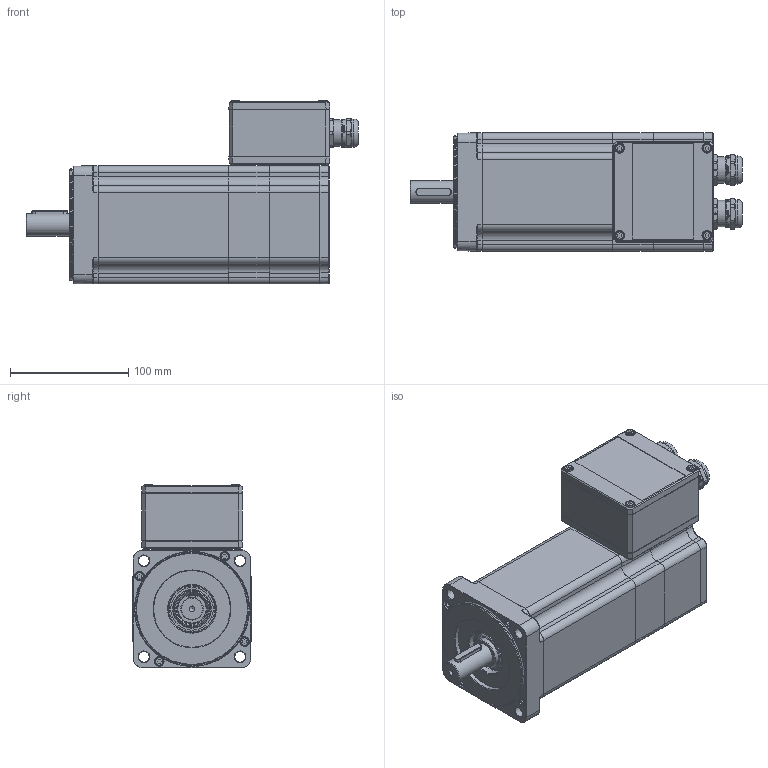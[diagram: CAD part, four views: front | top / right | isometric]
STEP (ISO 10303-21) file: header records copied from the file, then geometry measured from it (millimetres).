
FILE_DESCRIPTION(/* description */ ('Unknown'),/* implementation_level */ '2;1');
FILE_NAME(/* name */ 'TC4-100.4A LV M1 FRENO MORS Q0BQ21',/* time_stamp */ '2026-06-09T16:57:03+02:00',/* author */ ('Unknown'),/* organization */ ('Unknown'),/* preprocessor_version */ 'ST-DEVELOPER v19.4',/* originating_system */ 'Solid Edge',/* authorisation */ 'Unknown');
FILE_SCHEMA (('AUTOMOTIVE_DESIGN {1 0 10303 214 3 1 1}'));
Products named in the file (24): Q0BQ21 4A FRENO M1 VUOTO; Albero TC4-100 H 45 LV A19 CH PR. M1 FRENO; 003799004095; Calotta TC4 100 LV asola maggiorata V2 FRENO; 007303000700; 005119000312; 005113000500; 005911000550; 003107003287; 005911000253; Distanziale campana M1 pr. mors; 007303000110; 005911000420; 003110000130; 003755100351; 003151003182; 005603000170; 005603000170_Gland; 005603000170_Nut; 005603000170_Clamping insert; 005603000170_Sealing insert; 005603000170_O Ring; 005911000208; 003251040721
Assembly tree (37 placements, depth 3):
  Q0BQ21 4A FRENO M1 VUOTO
    Albero TC4-100 H 45 LV A19 CH PR. M1 FRENO
    003799004095
    Calotta TC4 100 LV asola maggiorata V2 FRENO
    007303000700
    005119000312
    005113000500
    005911000550  x4
    003107003287
    005911000253  x4
    Distanziale campana M1 pr. mors
    007303000110  x2
    005911000420  x4
    003110000130
    003755100351
    003151003182
    005603000170  x2
      005603000170_Gland
      005603000170_Nut
      005603000170_Clamping insert
      005603000170_Sealing insert
      005603000170_O Ring
    005911000208  x4
    003251040721
Bounding box: 281.19 x 100 x 155.71 mm (x, y, z)
Volume: 884072.6 mm3; surface area: 368412.3 mm2
Topology: 42 solids, 42 shells, 3122 faces, 8033 edges, 5158 vertices
Faces by surface type: plane 1880, cylinder 624, cone 243, bspline 169, torus 163, sphere 43
Full cylindrical faces by diameter (mm): 1 x8, 2.459 x2, 3.2 x1, 3.242 x50, 3.3 x5, 3.5 x2, 4 x17, 4.5 x20, 4.917 x1, 5 x8, 5.15 x8, 6 x1, 7 x16, 8 x14, 8.004 x4, 10 x1, 14 x2, 14.2 x2, 14.3 x2, 16.1 x4, 16.99 x1, 17 x1, 18.4 x4, 19 x1, 19.2 x4, 19.99 x1, 20 x2, 20.1 x4, 20.9 x2, 21.16 x2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
Entity records: 83946 total; most frequent: CARTESIAN_POINT 17567, DIRECTION 11059, ORIENTED_EDGE 11050, EDGE_CURVE 5525, AXIS2_PLACEMENT_3D 3952, VERTEX_POINT 3733, LINE 3155, VECTOR 3155
